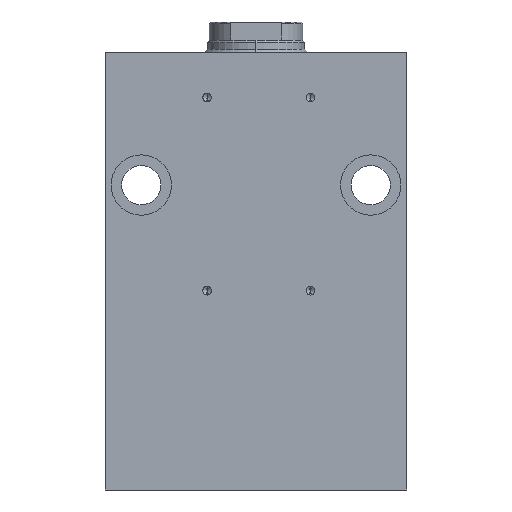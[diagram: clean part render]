
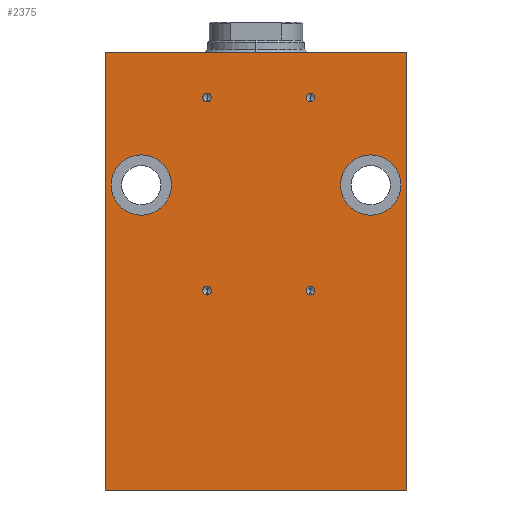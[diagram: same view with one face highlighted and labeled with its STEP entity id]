
A CAD part, left-side view. The second image highlights one B-rep face of the part: STEP entity #2375.
In plain terms, the highlighted planar face has unit normal (-1, 0, 0).
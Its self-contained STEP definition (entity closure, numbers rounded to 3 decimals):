
#16 = FACE_BOUND ( 'NONE', #78, .T. ) ;
#18 = ORIENTED_EDGE ( 'NONE', *, *, #2318, .F. ) ;
#20 = ORIENTED_EDGE ( 'NONE', *, *, #1375, .T. ) ;
#53 = CIRCLE ( 'NONE', #3778, 10. ) ;
#78 = EDGE_LOOP ( 'NONE', ( #2423, #4390 ) ) ;
#110 = CARTESIAN_POINT ( 'NONE',  ( -37.5, 50., -10. ) ) ;
#295 = DIRECTION ( 'NONE',  ( -1., 0., 0. ) ) ;
#304 = EDGE_CURVE ( 'NONE', #719, #3614, #3410, .T. ) ;
#310 = DIRECTION ( 'NONE',  ( 0., 0., 1. ) ) ;
#365 = DIRECTION ( 'NONE',  ( -1., 0., 0. ) ) ;
#374 = AXIS2_PLACEMENT_3D ( 'NONE', #1423, #3721, #1867 ) ;
#375 = AXIS2_PLACEMENT_3D ( 'NONE', #1180, #2724, #4241 ) ;
#419 = DIRECTION ( 'NONE',  ( 0., 0., 1. ) ) ;
#442 = EDGE_LOOP ( 'NONE', ( #2235, #1606 ) ) ;
#456 = DIRECTION ( 'NONE',  ( -1., 0., 0. ) ) ;
#497 = DIRECTION ( 'NONE',  ( 0., 0., 1. ) ) ;
#531 = EDGE_LOOP ( 'NONE', ( #18, #4337 ) ) ;
#611 = CIRCLE ( 'NONE', #374, 10. ) ;
#613 = CIRCLE ( 'NONE', #375, 1.425 ) ;
#620 = ORIENTED_EDGE ( 'NONE', *, *, #3976, .F. ) ;
#701 = AXIS2_PLACEMENT_3D ( 'NONE', #3691, #295, #1450 ) ;
#719 = VERTEX_POINT ( 'NONE', #4425 ) ;
#782 = CIRCLE ( 'NONE', #1898, 10. ) ;
#808 = CARTESIAN_POINT ( 'NONE',  ( -37.5, 16.2, -25. ) ) ;
#867 = DIRECTION ( 'NONE',  ( 0., 0., -1. ) ) ;
#920 = EDGE_CURVE ( 'NONE', #4137, #3894, #1047, .T. ) ;
#994 = CARTESIAN_POINT ( 'NONE',  ( -37.5, -18., -23.575 ) ) ;
#1015 = AXIS2_PLACEMENT_3D ( 'NONE', #2915, #3759, #1466 ) ;
#1047 = LINE ( 'NONE', #2939, #3176 ) ;
#1163 = CIRCLE ( 'NONE', #701, 1.425 ) ;
#1170 = EDGE_LOOP ( 'NONE', ( #2221, #1598 ) ) ;
#1172 = CARTESIAN_POINT ( 'NONE',  ( -37.5, -18., -26.425 ) ) ;
#1180 = CARTESIAN_POINT ( 'NONE',  ( -37.5, 16.2, -89. ) ) ;
#1223 = EDGE_CURVE ( 'NONE', #3782, #4718, #2389, .T. ) ;
#1241 = DIRECTION ( 'NONE',  ( -1., 0., 0. ) ) ;
#1309 = CARTESIAN_POINT ( 'NONE',  ( -37.5, -50., -10. ) ) ;
#1369 = LINE ( 'NONE', #4790, #2360 ) ;
#1375 = EDGE_CURVE ( 'NONE', #3894, #3353, #4828, .T. ) ;
#1423 = CARTESIAN_POINT ( 'NONE',  ( -37.5, -38., -54. ) ) ;
#1450 = DIRECTION ( 'NONE',  ( 0., 0., 1. ) ) ;
#1466 = DIRECTION ( 'NONE',  ( 0., 0., 1. ) ) ;
#1549 = VERTEX_POINT ( 'NONE', #994 ) ;
#1564 = EDGE_CURVE ( 'NONE', #2776, #3974, #1959, .T. ) ;
#1580 = AXIS2_PLACEMENT_3D ( 'NONE', #3813, #365, #419 ) ;
#1598 = ORIENTED_EDGE ( 'NONE', *, *, #2185, .F. ) ;
#1600 = ORIENTED_EDGE ( 'NONE', *, *, #3583, .F. ) ;
#1606 = ORIENTED_EDGE ( 'NONE', *, *, #1564, .F. ) ;
#1643 = DIRECTION ( 'NONE',  ( 0., 0., 1. ) ) ;
#1668 = CARTESIAN_POINT ( 'NONE',  ( -37.5, 16.2, -89. ) ) ;
#1776 = VERTEX_POINT ( 'NONE', #4554 ) ;
#1791 = DIRECTION ( 'NONE',  ( -1., 0., 0. ) ) ;
#1867 = DIRECTION ( 'NONE',  ( 0., 0., -1. ) ) ;
#1898 = AXIS2_PLACEMENT_3D ( 'NONE', #3641, #1791, #2083 ) ;
#1912 = FACE_BOUND ( 'NONE', #442, .T. ) ;
#1934 = CARTESIAN_POINT ( 'NONE',  ( -37.5, 50., -155. ) ) ;
#1956 = FACE_BOUND ( 'NONE', #531, .T. ) ;
#1959 = CIRCLE ( 'NONE', #1015, 1.425 ) ;
#1965 = CARTESIAN_POINT ( 'NONE',  ( -37.5, -38., -54. ) ) ;
#2007 = DIRECTION ( 'NONE',  ( 0., -1., 0. ) ) ;
#2017 = ORIENTED_EDGE ( 'NONE', *, *, #2497, .F. ) ;
#2029 = CARTESIAN_POINT ( 'NONE',  ( -37.5, -50., -155. ) ) ;
#2081 = LINE ( 'NONE', #110, #3150 ) ;
#2083 = DIRECTION ( 'NONE',  ( 0., 0., -1. ) ) ;
#2104 = EDGE_LOOP ( 'NONE', ( #620, #2017 ) ) ;
#2108 = AXIS2_PLACEMENT_3D ( 'NONE', #3964, #3193, #1643 ) ;
#2147 = AXIS2_PLACEMENT_3D ( 'NONE', #808, #456, #2265 ) ;
#2185 = EDGE_CURVE ( 'NONE', #4718, #3782, #613, .T. ) ;
#2195 = VECTOR ( 'NONE', #310, 1000. ) ;
#2221 = ORIENTED_EDGE ( 'NONE', *, *, #1223, .F. ) ;
#2235 = ORIENTED_EDGE ( 'NONE', *, *, #4591, .F. ) ;
#2239 = ORIENTED_EDGE ( 'NONE', *, *, #2561, .F. ) ;
#2265 = DIRECTION ( 'NONE',  ( 0., 0., 1. ) ) ;
#2266 = AXIS2_PLACEMENT_3D ( 'NONE', #1934, #4158, #3046 ) ;
#2314 = ORIENTED_EDGE ( 'NONE', *, *, #920, .T. ) ;
#2318 = EDGE_CURVE ( 'NONE', #3614, #719, #1163, .T. ) ;
#2329 = FACE_BOUND ( 'NONE', #1170, .T. ) ;
#2351 = PLANE ( 'NONE',  #2266 ) ;
#2360 = VECTOR ( 'NONE', #2845, 1000. ) ;
#2374 = VERTEX_POINT ( 'NONE', #2691 ) ;
#2375 = ADVANCED_FACE ( 'NONE', ( #1956, #3418, #1912, #2329, #16, #3811, #3834 ), #2351, .T. ) ;
#2389 = CIRCLE ( 'NONE', #2935, 1.425 ) ;
#2402 = CARTESIAN_POINT ( 'NONE',  ( -37.5, -38., -44. ) ) ;
#2423 = ORIENTED_EDGE ( 'NONE', *, *, #3037, .F. ) ;
#2497 = EDGE_CURVE ( 'NONE', #4398, #3442, #2826, .T. ) ;
#2561 = EDGE_CURVE ( 'NONE', #3762, #1549, #4245, .T. ) ;
#2681 = CIRCLE ( 'NONE', #3083, 1.425 ) ;
#2691 = CARTESIAN_POINT ( 'NONE',  ( -37.5, -38., -64. ) ) ;
#2724 = DIRECTION ( 'NONE',  ( -1., 0., 0. ) ) ;
#2746 = DIRECTION ( 'NONE',  ( 0., 0., -1. ) ) ;
#2776 = VERTEX_POINT ( 'NONE', #2936 ) ;
#2825 = ORIENTED_EDGE ( 'NONE', *, *, #3764, .F. ) ;
#2826 = CIRCLE ( 'NONE', #3466, 10. ) ;
#2845 = DIRECTION ( 'NONE',  ( 0., 0., 1. ) ) ;
#2915 = CARTESIAN_POINT ( 'NONE',  ( -37.5, -18., -89. ) ) ;
#2935 = AXIS2_PLACEMENT_3D ( 'NONE', #1668, #3561, #3117 ) ;
#2936 = CARTESIAN_POINT ( 'NONE',  ( -37.5, -18., -90.425 ) ) ;
#2939 = CARTESIAN_POINT ( 'NONE',  ( -37.5, 50., -155. ) ) ;
#2966 = CARTESIAN_POINT ( 'NONE',  ( -37.5, 16.2, -90.425 ) ) ;
#2992 = CIRCLE ( 'NONE', #1580, 1.425 ) ;
#3037 = EDGE_CURVE ( 'NONE', #3332, #2374, #611, .T. ) ;
#3046 = DIRECTION ( 'NONE',  ( 0., 0., 1. ) ) ;
#3083 = AXIS2_PLACEMENT_3D ( 'NONE', #3915, #3518, #497 ) ;
#3117 = DIRECTION ( 'NONE',  ( 0., 0., 1. ) ) ;
#3150 = VECTOR ( 'NONE', #2007, 1000. ) ;
#3176 = VECTOR ( 'NONE', #3661, 1000. ) ;
#3191 = EDGE_LOOP ( 'NONE', ( #2825, #2239 ) ) ;
#3193 = DIRECTION ( 'NONE',  ( -1., 0., 0. ) ) ;
#3286 = EDGE_CURVE ( 'NONE', #1776, #3353, #2081, .T. ) ;
#3332 = VERTEX_POINT ( 'NONE', #2402 ) ;
#3353 = VERTEX_POINT ( 'NONE', #1309 ) ;
#3410 = CIRCLE ( 'NONE', #2147, 1.425 ) ;
#3418 = FACE_BOUND ( 'NONE', #3191, .T. ) ;
#3442 = VERTEX_POINT ( 'NONE', #3917 ) ;
#3466 = AXIS2_PLACEMENT_3D ( 'NONE', #3906, #3589, #867 ) ;
#3516 = EDGE_CURVE ( 'NONE', #2374, #3332, #53, .T. ) ;
#3518 = DIRECTION ( 'NONE',  ( -1., 0., 0. ) ) ;
#3561 = DIRECTION ( 'NONE',  ( -1., 0., 0. ) ) ;
#3583 = EDGE_CURVE ( 'NONE', #4137, #1776, #1369, .T. ) ;
#3589 = DIRECTION ( 'NONE',  ( -1., 0., 0. ) ) ;
#3614 = VERTEX_POINT ( 'NONE', #4020 ) ;
#3641 = CARTESIAN_POINT ( 'NONE',  ( -37.5, 38., -54. ) ) ;
#3661 = DIRECTION ( 'NONE',  ( 0., -1., 0. ) ) ;
#3691 = CARTESIAN_POINT ( 'NONE',  ( -37.5, 16.2, -25. ) ) ;
#3721 = DIRECTION ( 'NONE',  ( -1., 0., 0. ) ) ;
#3759 = DIRECTION ( 'NONE',  ( -1., 0., 0. ) ) ;
#3762 = VERTEX_POINT ( 'NONE', #1172 ) ;
#3764 = EDGE_CURVE ( 'NONE', #1549, #3762, #2992, .T. ) ;
#3778 = AXIS2_PLACEMENT_3D ( 'NONE', #1965, #1241, #2746 ) ;
#3782 = VERTEX_POINT ( 'NONE', #3931 ) ;
#3811 = FACE_BOUND ( 'NONE', #2104, .T. ) ;
#3813 = CARTESIAN_POINT ( 'NONE',  ( -37.5, -18., -25. ) ) ;
#3834 = FACE_OUTER_BOUND ( 'NONE', #4342, .T. ) ;
#3894 = VERTEX_POINT ( 'NONE', #2029 ) ;
#3906 = CARTESIAN_POINT ( 'NONE',  ( -37.5, 38., -54. ) ) ;
#3915 = CARTESIAN_POINT ( 'NONE',  ( -37.5, -18., -89. ) ) ;
#3917 = CARTESIAN_POINT ( 'NONE',  ( -37.5, 38., -44. ) ) ;
#3931 = CARTESIAN_POINT ( 'NONE',  ( -37.5, 16.2, -87.575 ) ) ;
#3964 = CARTESIAN_POINT ( 'NONE',  ( -37.5, -18., -25. ) ) ;
#3967 = CARTESIAN_POINT ( 'NONE',  ( -37.5, -18., -87.575 ) ) ;
#3974 = VERTEX_POINT ( 'NONE', #3967 ) ;
#3976 = EDGE_CURVE ( 'NONE', #3442, #4398, #782, .T. ) ;
#4020 = CARTESIAN_POINT ( 'NONE',  ( -37.5, 16.2, -23.575 ) ) ;
#4101 = CARTESIAN_POINT ( 'NONE',  ( -37.5, -50., -155. ) ) ;
#4137 = VERTEX_POINT ( 'NONE', #4534 ) ;
#4158 = DIRECTION ( 'NONE',  ( -1., 0., 0. ) ) ;
#4241 = DIRECTION ( 'NONE',  ( 0., 0., 1. ) ) ;
#4245 = CIRCLE ( 'NONE', #2108, 1.425 ) ;
#4337 = ORIENTED_EDGE ( 'NONE', *, *, #304, .F. ) ;
#4342 = EDGE_LOOP ( 'NONE', ( #4737, #1600, #2314, #20 ) ) ;
#4390 = ORIENTED_EDGE ( 'NONE', *, *, #3516, .F. ) ;
#4398 = VERTEX_POINT ( 'NONE', #4796 ) ;
#4425 = CARTESIAN_POINT ( 'NONE',  ( -37.5, 16.2, -26.425 ) ) ;
#4534 = CARTESIAN_POINT ( 'NONE',  ( -37.5, 50., -155. ) ) ;
#4554 = CARTESIAN_POINT ( 'NONE',  ( -37.5, 50., -10. ) ) ;
#4591 = EDGE_CURVE ( 'NONE', #3974, #2776, #2681, .T. ) ;
#4718 = VERTEX_POINT ( 'NONE', #2966 ) ;
#4737 = ORIENTED_EDGE ( 'NONE', *, *, #3286, .F. ) ;
#4790 = CARTESIAN_POINT ( 'NONE',  ( -37.5, 50., -155. ) ) ;
#4796 = CARTESIAN_POINT ( 'NONE',  ( -37.5, 38., -64. ) ) ;
#4828 = LINE ( 'NONE', #4101, #2195 ) ;
